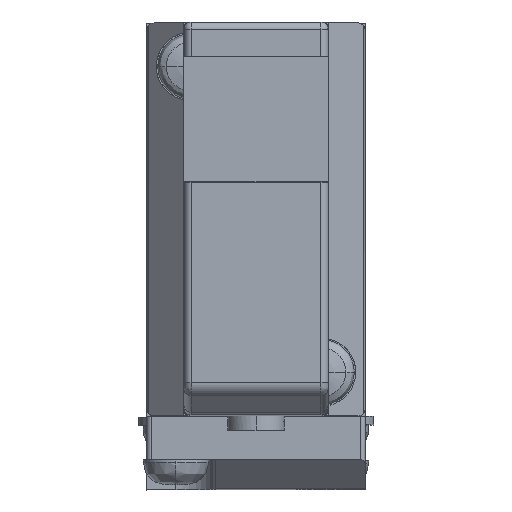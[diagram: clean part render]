
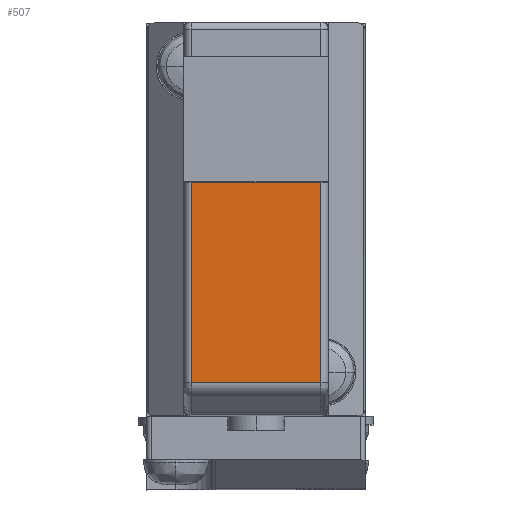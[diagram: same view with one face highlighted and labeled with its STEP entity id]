
A CAD part, top view. The second image highlights one B-rep face of the part: STEP entity #507.
In plain terms, the highlighted planar face has unit normal (0, 0, 1).
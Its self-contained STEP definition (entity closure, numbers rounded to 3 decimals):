
#507=ADVANCED_FACE('',(#2729),#2728,.F.);
#2728=PLANE('',#5134);
#2729=FACE_OUTER_BOUND('',#5135,.T.);
#5131=CARTESIAN_POINT('',(5.34,-26.133,27.4));
#5132=DIRECTION('',(0.,0.,-1.));
#5133=DIRECTION('',(-1.,0.,0.));
#5134=AXIS2_PLACEMENT_3D('',#5131,#5132,#5133);
#5135=EDGE_LOOP('',(#6765,#6766,#6767,#6768));
#6765=ORIENTED_EDGE('',*,*,#7676,.F.);
#6766=ORIENTED_EDGE('',*,*,#7733,.T.);
#6767=ORIENTED_EDGE('',*,*,#7821,.T.);
#6768=ORIENTED_EDGE('',*,*,#7756,.T.);
#7676=EDGE_CURVE('',#10639,#10646,#10647,.T.);
#7733=EDGE_CURVE('',#10639,#11028,#11035,.T.);
#7756=EDGE_CURVE('',#11166,#10646,#11185,.T.);
#7821=EDGE_CURVE('',#11028,#11166,#11611,.T.);
#10639=VERTEX_POINT('',#14796);
#10646=VERTEX_POINT('',#14801);
#10647=LINE('',#14802,#14803);
#11028=VERTEX_POINT('',#15040);
#11035=LINE('',#15045,#15046);
#11166=VERTEX_POINT('',#15128);
#11185=LINE('',#15141,#15142);
#11611=LINE('',#15386,#15387);
#14796=CARTESIAN_POINT('',(-4.45,-11.,27.4));
#14801=CARTESIAN_POINT('',(4.45,-11.,27.4));
#14802=CARTESIAN_POINT('',(-4.45,-11.,27.4));
#14803=VECTOR('',#14804,8.9);
#14804=DIRECTION('',(1.,0.,0.));
#15040=CARTESIAN_POINT('',(-4.45,-24.758,27.4));
#15045=CARTESIAN_POINT('',(-4.45,-11.,27.4));
#15046=VECTOR('',#15047,13.758);
#15047=DIRECTION('',(0.,-1.,0.));
#15128=CARTESIAN_POINT('',(4.45,-24.758,27.4));
#15141=CARTESIAN_POINT('',(4.45,-24.758,27.4));
#15142=VECTOR('',#15143,13.758);
#15143=DIRECTION('',(0.,1.,0.));
#15386=CARTESIAN_POINT('',(-4.45,-24.758,27.4));
#15387=VECTOR('',#15388,8.9);
#15388=DIRECTION('',(1.,0.,0.));
